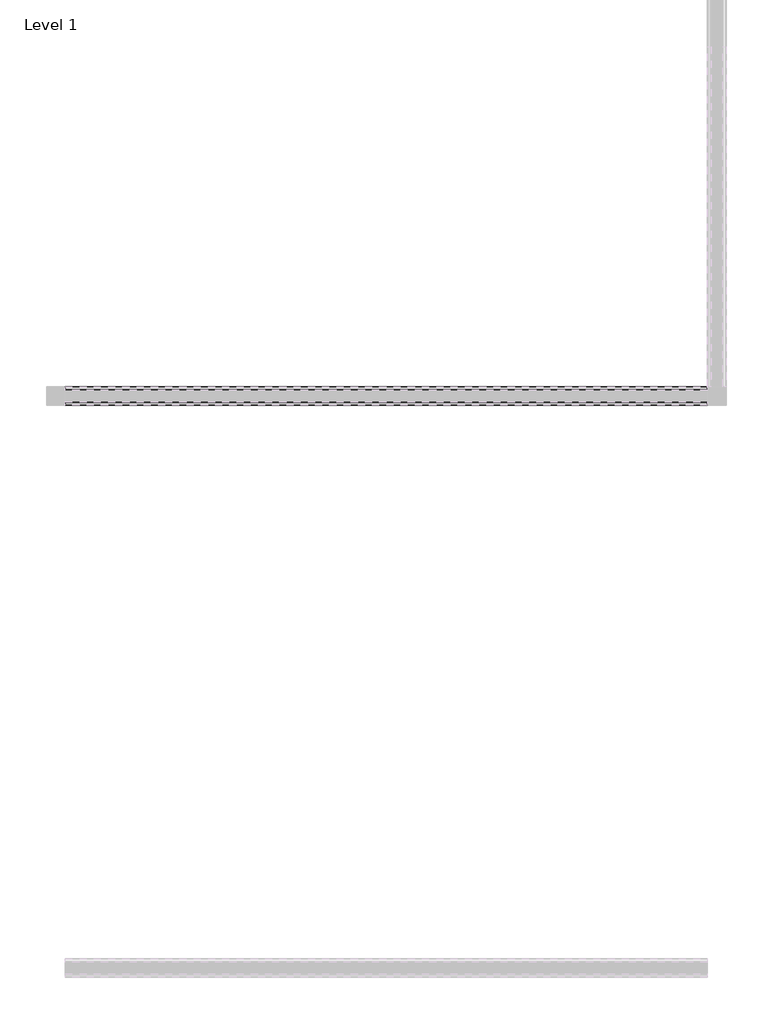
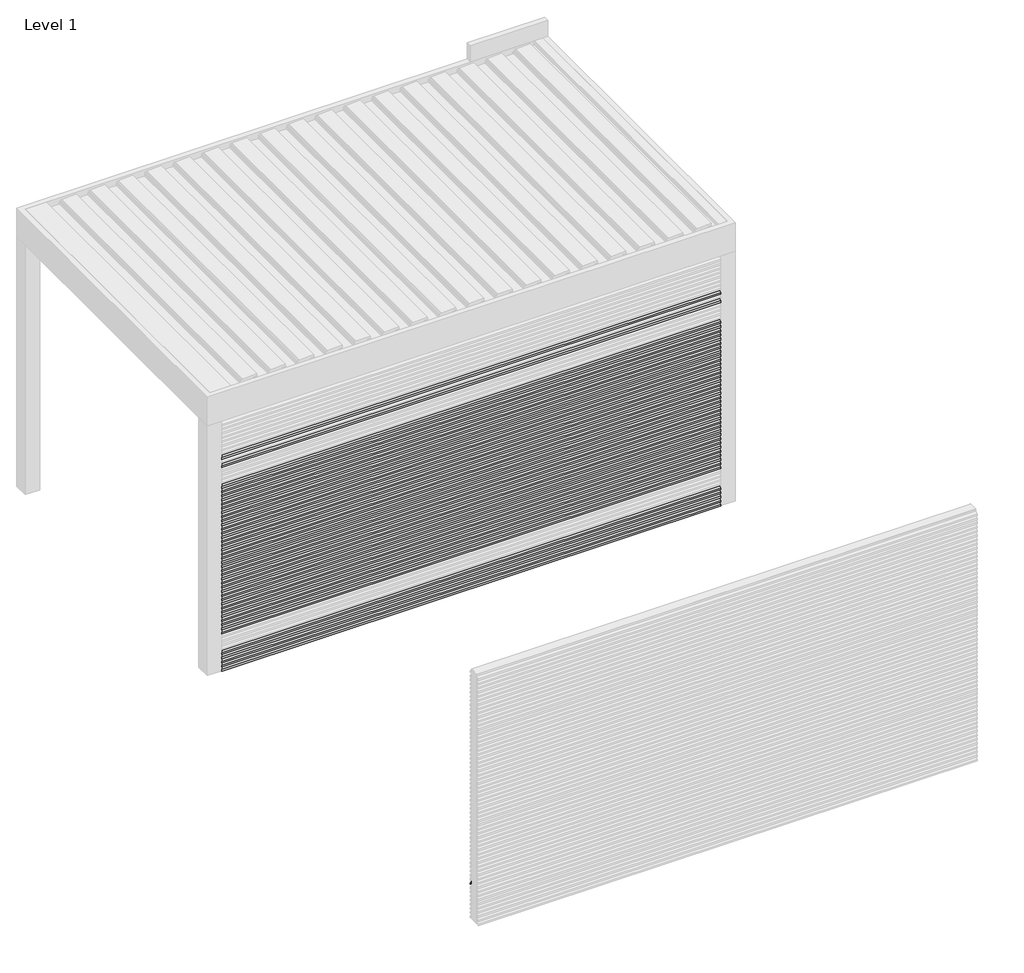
# One storey, part 40 of 47: 86 proxies.
"""IFC4 building model written with IfcOpenShell, lengths in millimetres."""

from ifc_helpers import new_model, si_unit, frame, origin, place, context, project, spatial, polyline, outline, extrude, element, save

model = new_model("IFC4")

# Units and contexts
model_context = context("Model", 3, world=origin())
ifc_project = project(units=[si_unit("LENGTHUNIT", "METRE", prefix="MILLI")], contexts=[model_context])

# Site, building, storey
site = spatial("IfcSite", under=ifc_project)
building = spatial("IfcBuilding", under=site)
storey = spatial("IfcBuildingStorey", under=building, Name="Level 1", Elevation=0.0)

# Proxies
placement = place(None, origin())
element("IfcBuildingElementProxy", 1, Name="Wall Sweeps", at=placement, inside=storey, context=model_context, shape_type="SweptSolid", body=[
    extrude(outline(polyline([(36266.8292826, 276.0), (36266.8292826, 262.5), (36265.5792826, 263.2216933), (36265.5792826, 275.2782281), (36246.4292826, 286.3345698), (36246.4292826, 300.0), (36247.6792826, 300.0), (36247.6792826, 287.0562577), (36266.8292826, 276.0)])), frame((205282.4238385, 0.0, 0.0), z_axis=(1.0, 0.0, 0.0), x_axis=(0.0, 1.0, 0.0)), (0.0, 0.0, 1.0), 3780.0),
])
element("IfcBuildingElementProxy", 2, Name="Wall Sweeps", at=placement, inside=storey, context=model_context, shape_type="SweptSolid", body=[
    extrude(outline(polyline([(39632.1593685, 309.3), (39632.1593685, 295.8), (39630.9093685, 296.5216933), (39630.9093685, 308.5782281), (39611.7593685, 319.6345698), (39611.7593685, 333.3), (39613.0093685, 333.3), (39613.0093685, 320.3562577), (39632.1593685, 309.3)])), frame((205282.4238385, 0.0, 0.0), z_axis=(1.0, 0.0, 0.0), x_axis=(0.0, 1.0, 0.0)), (0.0, 0.0, 1.0), 3780.0),
])
element("IfcBuildingElementProxy", 3, Name="Wall Sweeps", at=placement, inside=storey, context=model_context, shape_type="SweptSolid", body=[
    extrude(outline(polyline([(39522.1593685, 741.9), (39541.3093685, 752.9562577), (39541.3093685, 765.9), (39542.5593685, 765.9), (39542.5593685, 752.2345698), (39523.4093685, 741.1782281), (39523.4093685, 729.1216933), (39522.1593685, 728.4), (39522.1593685, 741.9)])), frame((205282.4238385, 0.0, 0.0), z_axis=(1.0, 0.0, 0.0), x_axis=(0.0, 1.0, 0.0)), (0.0, 0.0, 1.0), 3780.0),
])
element("IfcBuildingElementProxy", 4, Name="Wall Sweeps", at=placement, inside=storey, context=model_context, shape_type="SweptSolid", body=[
    extrude(outline(polyline([(39522.1593685, 808.5), (39541.3093685, 819.5562577), (39541.3093685, 832.5), (39542.5593685, 832.5), (39542.5593685, 818.8345698), (39523.4093685, 807.7782281), (39523.4093685, 795.7216933), (39522.1593685, 795.0), (39522.1593685, 808.5)])), frame((205282.4238385, 0.0, 0.0), z_axis=(1.0, 0.0, 0.0), x_axis=(0.0, 1.0, 0.0)), (0.0, 0.0, 1.0), 3780.0),
])
element("IfcBuildingElementProxy", 5, Name="Wall Sweeps", at=placement, inside=storey, context=model_context, shape_type="SweptSolid", body=[
    extrude(outline(polyline([(39522.1593685, 875.1), (39541.3093685, 886.1562577), (39541.3093685, 899.1), (39542.5593685, 899.1), (39542.5593685, 885.4345698), (39523.4093685, 874.3782281), (39523.4093685, 862.3216933), (39522.1593685, 861.6), (39522.1593685, 875.1)])), frame((205282.4238385, 0.0, 0.0), z_axis=(1.0, 0.0, 0.0), x_axis=(0.0, 1.0, 0.0)), (0.0, 0.0, 1.0), 3780.0),
])
element("IfcBuildingElementProxy", 6, Name="Wall Sweeps", at=placement, inside=storey, context=model_context, shape_type="SweptSolid", body=[
    extrude(outline(polyline([(39632.1593685, 1075.9), (39632.1593685, 1062.4), (39630.9093685, 1063.1216933), (39630.9093685, 1075.1782281), (39611.7593685, 1086.2345698), (39611.7593685, 1099.9), (39613.0093685, 1099.9), (39613.0093685, 1086.9562577), (39632.1593685, 1075.9)])), frame((205282.4238385, 0.0, 0.0), z_axis=(1.0, 0.0, 0.0), x_axis=(0.0, 1.0, 0.0)), (0.0, 0.0, 1.0), 3780.0),
])
element("IfcBuildingElementProxy", 7, Name="Wall Sweeps", at=placement, inside=storey, context=model_context, shape_type="SweptSolid", body=[
    extrude(outline(polyline([(39632.1593685, 1409.2), (39632.1593685, 1395.7), (39630.9093685, 1396.4216933), (39630.9093685, 1408.4782281), (39611.7593685, 1419.5345698), (39611.7593685, 1433.2), (39613.0093685, 1433.2), (39613.0093685, 1420.2562577), (39632.1593685, 1409.2)])), frame((205282.4238385, 0.0, 0.0), z_axis=(1.0, 0.0, 0.0), x_axis=(0.0, 1.0, 0.0)), (0.0, 0.0, 1.0), 3780.0),
])
element("IfcBuildingElementProxy", 8, Name="Wall Sweeps", at=placement, inside=storey, context=model_context, shape_type="SweptSolid", body=[
    extrude(outline(polyline([(39522.1593685, 1641.0), (39541.3093685, 1652.0562577), (39541.3093685, 1665.0), (39542.5593685, 1665.0), (39542.5593685, 1651.3345698), (39523.4093685, 1640.2782281), (39523.4093685, 1628.2216933), (39522.1593685, 1627.5), (39522.1593685, 1641.0)])), frame((205282.4238385, 0.0, 0.0), z_axis=(1.0, 0.0, 0.0), x_axis=(0.0, 1.0, 0.0)), (0.0, 0.0, 1.0), 3780.0),
])
element("IfcBuildingElementProxy", 9, Name="Wall Sweeps", at=placement, inside=storey, context=model_context, shape_type="SweptSolid", body=[
    extrude(outline(polyline([(39522.1593685, 142.5), (39541.3093685, 153.5562577), (39541.3093685, 166.5), (39542.5593685, 166.5), (39542.5593685, 152.8345698), (39523.4093685, 141.7782281), (39523.4093685, 129.7216933), (39522.1593685, 129.0), (39522.1593685, 142.5)])), frame((205282.4238385, 0.0, 0.0), z_axis=(1.0, 0.0, 0.0), x_axis=(0.0, 1.0, 0.0)), (0.0, 0.0, 1.0), 3780.0),
])
element("IfcBuildingElementProxy", 10, Name="Wall Sweeps", at=placement, inside=storey, context=model_context, shape_type="SweptSolid", body=[
    extrude(outline(polyline([(39632.1593685, 1641.0), (39632.1593685, 1627.5), (39630.9093685, 1628.2216933), (39630.9093685, 1640.2782281), (39611.7593685, 1651.3345698), (39611.7593685, 1665.0), (39613.0093685, 1665.0), (39613.0093685, 1652.0562577), (39632.1593685, 1641.0)])), frame((205282.4238385, 0.0, 0.0), z_axis=(1.0, 0.0, 0.0), x_axis=(0.0, 1.0, 0.0)), (0.0, 0.0, 1.0), 3780.0),
])
element("IfcBuildingElementProxy", 11, Name="Wall Sweeps", at=placement, inside=storey, context=model_context, shape_type="SweptSolid", body=[
    extrude(outline(polyline([(39522.1593685, 1707.6), (39541.3093685, 1718.6562577), (39541.3093685, 1731.6), (39542.5593685, 1731.6), (39542.5593685, 1717.9345698), (39523.4093685, 1706.8782281), (39523.4093685, 1694.8216933), (39522.1593685, 1694.1), (39522.1593685, 1707.6)])), frame((205282.4238385, 0.0, 0.0), z_axis=(1.0, 0.0, 0.0), x_axis=(0.0, 1.0, 0.0)), (0.0, 0.0, 1.0), 3780.0),
])
element("IfcBuildingElementProxy", 12, Name="Wall Sweeps", at=placement, inside=storey, context=model_context, shape_type="SweptSolid", body=[
    extrude(outline(polyline([(39632.1593685, 209.3), (39632.1593685, 195.8), (39630.9093685, 196.5216933), (39630.9093685, 208.5782281), (39611.7593685, 219.6345698), (39611.7593685, 233.3), (39613.0093685, 233.3), (39613.0093685, 220.3562577), (39632.1593685, 209.3)])), frame((205282.4238385, 0.0, 0.0), z_axis=(1.0, 0.0, 0.0), x_axis=(0.0, 1.0, 0.0)), (0.0, 0.0, 1.0), 3780.0),
])
element("IfcBuildingElementProxy", 13, Name="Wall Sweeps", at=placement, inside=storey, context=model_context, shape_type="SweptSolid", body=[
    extrude(outline(polyline([(39522.1593685, 309.0), (39541.3093685, 320.0562577), (39541.3093685, 333.0), (39542.5593685, 333.0), (39542.5593685, 319.3345698), (39523.4093685, 308.2782281), (39523.4093685, 296.2216933), (39522.1593685, 295.5), (39522.1593685, 309.0)])), frame((205282.4238385, 0.0, 0.0), z_axis=(1.0, 0.0, 0.0), x_axis=(0.0, 1.0, 0.0)), (0.0, 0.0, 1.0), 3780.0),
])
element("IfcBuildingElementProxy", 14, Name="Wall Sweeps", at=placement, inside=storey, context=model_context, shape_type="SweptSolid", body=[
    extrude(outline(polyline([(39522.1593685, 9.3), (39541.3093685, 20.3562577), (39541.3093685, 33.3), (39542.5593685, 33.3), (39542.5593685, 19.6345698), (39523.4093685, 8.5782281), (39523.4093685, -3.4783067), (39522.1593685, -4.2), (39522.1593685, 9.3)])), frame((205282.4238385, 0.0, 0.0), z_axis=(1.0, 0.0, 0.0), x_axis=(0.0, 1.0, 0.0)), (0.0, 0.0, 1.0), 3780.0),
])
element("IfcBuildingElementProxy", 15, Name="Wall Sweeps", at=placement, inside=storey, context=model_context, shape_type="SweptSolid", body=[
    extrude(outline(polyline([(39632.1593685, 9.3), (39632.1593685, -4.2), (39630.9093685, -3.4783067), (39630.9093685, 8.5782281), (39611.7593685, 19.6345698), (39611.7593685, 33.3), (39613.0093685, 33.3), (39613.0093685, 20.3562577), (39632.1593685, 9.3)])), frame((205282.4238385, 0.0, 0.0), z_axis=(1.0, 0.0, 0.0), x_axis=(0.0, 1.0, 0.0)), (0.0, 0.0, 1.0), 3780.0),
])
element("IfcBuildingElementProxy", 16, Name="Wall Sweeps", at=placement, inside=storey, context=model_context, shape_type="SweptSolid", body=[
    extrude(outline(polyline([(39522.1593685, 342.3), (39541.3093685, 353.3562577), (39541.3093685, 366.3), (39542.5593685, 366.3), (39542.5593685, 352.6345698), (39523.4093685, 341.5782281), (39523.4093685, 329.5216933), (39522.1593685, 328.8), (39522.1593685, 342.3)])), frame((205282.4238385, 0.0, 0.0), z_axis=(1.0, 0.0, 0.0), x_axis=(0.0, 1.0, 0.0)), (0.0, 0.0, 1.0), 3780.0),
])
element("IfcBuildingElementProxy", 17, Name="Wall Sweeps", at=placement, inside=storey, context=model_context, shape_type="SweptSolid", body=[
    extrude(outline(polyline([(39632.1593685, 342.6), (39632.1593685, 329.1), (39630.9093685, 329.8216933), (39630.9093685, 341.8782281), (39611.7593685, 352.9345698), (39611.7593685, 366.6), (39613.0093685, 366.6), (39613.0093685, 353.6562577), (39632.1593685, 342.6)])), frame((205282.4238385, 0.0, 0.0), z_axis=(1.0, 0.0, 0.0), x_axis=(0.0, 1.0, 0.0)), (0.0, 0.0, 1.0), 3780.0),
])
element("IfcBuildingElementProxy", 18, Name="Wall Sweeps", at=placement, inside=storey, context=model_context, shape_type="SweptSolid", body=[
    extrude(outline(polyline([(39522.1593685, 375.6), (39541.3093685, 386.6562577), (39541.3093685, 399.6), (39542.5593685, 399.6), (39542.5593685, 385.9345698), (39523.4093685, 374.8782281), (39523.4093685, 362.8216933), (39522.1593685, 362.1), (39522.1593685, 375.6)])), frame((205282.4238385, 0.0, 0.0), z_axis=(1.0, 0.0, 0.0), x_axis=(0.0, 1.0, 0.0)), (0.0, 0.0, 1.0), 3780.0),
])
element("IfcBuildingElementProxy", 19, Name="Wall Sweeps", at=placement, inside=storey, context=model_context, shape_type="SweptSolid", body=[
    extrude(outline(polyline([(39632.1593685, 376.0), (39632.1593685, 362.5), (39630.9093685, 363.2216933), (39630.9093685, 375.2782281), (39611.7593685, 386.3345698), (39611.7593685, 400.0), (39613.0093685, 400.0), (39613.0093685, 387.0562577), (39632.1593685, 376.0)])), frame((205282.4238385, 0.0, 0.0), z_axis=(1.0, 0.0, 0.0), x_axis=(0.0, 1.0, 0.0)), (0.0, 0.0, 1.0), 3780.0),
])
element("IfcBuildingElementProxy", 20, Name="Wall Sweeps", at=placement, inside=storey, context=model_context, shape_type="SweptSolid", body=[
    extrude(outline(polyline([(39522.1593685, 408.9), (39541.3093685, 419.9562577), (39541.3093685, 432.9), (39542.5593685, 432.9), (39542.5593685, 419.2345698), (39523.4093685, 408.1782281), (39523.4093685, 396.1216933), (39522.1593685, 395.4), (39522.1593685, 408.9)])), frame((205282.4238385, 0.0, 0.0), z_axis=(1.0, 0.0, 0.0), x_axis=(0.0, 1.0, 0.0)), (0.0, 0.0, 1.0), 3780.0),
])
element("IfcBuildingElementProxy", 21, Name="Wall Sweeps", at=placement, inside=storey, context=model_context, shape_type="SweptSolid", body=[
    extrude(outline(polyline([(39632.1593685, 409.3), (39632.1593685, 395.8), (39630.9093685, 396.5216933), (39630.9093685, 408.5782281), (39611.7593685, 419.6345698), (39611.7593685, 433.3), (39613.0093685, 433.3), (39613.0093685, 420.3562577), (39632.1593685, 409.3)])), frame((205282.4238385, 0.0, 0.0), z_axis=(1.0, 0.0, 0.0), x_axis=(0.0, 1.0, 0.0)), (0.0, 0.0, 1.0), 3780.0),
])
element("IfcBuildingElementProxy", 22, Name="Wall Sweeps", at=placement, inside=storey, context=model_context, shape_type="SweptSolid", body=[
    extrude(outline(polyline([(39522.1593685, 442.2), (39541.3093685, 453.2562577), (39541.3093685, 466.2), (39542.5593685, 466.2), (39542.5593685, 452.5345698), (39523.4093685, 441.4782281), (39523.4093685, 429.4216933), (39522.1593685, 428.7), (39522.1593685, 442.2)])), frame((205282.4238385, 0.0, 0.0), z_axis=(1.0, 0.0, 0.0), x_axis=(0.0, 1.0, 0.0)), (0.0, 0.0, 1.0), 3780.0),
])
element("IfcBuildingElementProxy", 23, Name="Wall Sweeps", at=placement, inside=storey, context=model_context, shape_type="SweptSolid", body=[
    extrude(outline(polyline([(39632.1593685, 442.6), (39632.1593685, 429.1), (39630.9093685, 429.8216933), (39630.9093685, 441.8782281), (39611.7593685, 452.9345698), (39611.7593685, 466.6), (39613.0093685, 466.6), (39613.0093685, 453.6562577), (39632.1593685, 442.6)])), frame((205282.4238385, 0.0, 0.0), z_axis=(1.0, 0.0, 0.0), x_axis=(0.0, 1.0, 0.0)), (0.0, 0.0, 1.0), 3780.0),
])
element("IfcBuildingElementProxy", 24, Name="Wall Sweeps", at=placement, inside=storey, context=model_context, shape_type="SweptSolid", body=[
    extrude(outline(polyline([(39522.1593685, 475.5), (39541.3093685, 486.5562577), (39541.3093685, 499.5), (39542.5593685, 499.5), (39542.5593685, 485.8345698), (39523.4093685, 474.7782281), (39523.4093685, 462.7216933), (39522.1593685, 462.0), (39522.1593685, 475.5)])), frame((205282.4238385, 0.0, 0.0), z_axis=(1.0, 0.0, 0.0), x_axis=(0.0, 1.0, 0.0)), (0.0, 0.0, 1.0), 3780.0),
])
element("IfcBuildingElementProxy", 25, Name="Wall Sweeps", at=placement, inside=storey, context=model_context, shape_type="SweptSolid", body=[
    extrude(outline(polyline([(39632.1593685, 476.0), (39632.1593685, 462.5), (39630.9093685, 463.2216933), (39630.9093685, 475.2782281), (39611.7593685, 486.3345698), (39611.7593685, 500.0), (39613.0093685, 500.0), (39613.0093685, 487.0562577), (39632.1593685, 476.0)])), frame((205282.4238385, 0.0, 0.0), z_axis=(1.0, 0.0, 0.0), x_axis=(0.0, 1.0, 0.0)), (0.0, 0.0, 1.0), 3780.0),
])
element("IfcBuildingElementProxy", 26, Name="Wall Sweeps", at=placement, inside=storey, context=model_context, shape_type="SweptSolid", body=[
    extrude(outline(polyline([(39522.1593685, 508.8), (39541.3093685, 519.8562577), (39541.3093685, 532.8), (39542.5593685, 532.8), (39542.5593685, 519.1345698), (39523.4093685, 508.0782281), (39523.4093685, 496.0216933), (39522.1593685, 495.3), (39522.1593685, 508.8)])), frame((205282.4238385, 0.0, 0.0), z_axis=(1.0, 0.0, 0.0), x_axis=(0.0, 1.0, 0.0)), (0.0, 0.0, 1.0), 3780.0),
])
element("IfcBuildingElementProxy", 27, Name="Wall Sweeps", at=placement, inside=storey, context=model_context, shape_type="SweptSolid", body=[
    extrude(outline(polyline([(39632.1593685, 509.3), (39632.1593685, 495.8), (39630.9093685, 496.5216933), (39630.9093685, 508.5782281), (39611.7593685, 519.6345698), (39611.7593685, 533.3), (39613.0093685, 533.3), (39613.0093685, 520.3562577), (39632.1593685, 509.3)])), frame((205282.4238385, 0.0, 0.0), z_axis=(1.0, 0.0, 0.0), x_axis=(0.0, 1.0, 0.0)), (0.0, 0.0, 1.0), 3780.0),
])
element("IfcBuildingElementProxy", 28, Name="Wall Sweeps", at=placement, inside=storey, context=model_context, shape_type="SweptSolid", body=[
    extrude(outline(polyline([(39522.1593685, 542.1), (39541.3093685, 553.1562577), (39541.3093685, 566.1), (39542.5593685, 566.1), (39542.5593685, 552.4345698), (39523.4093685, 541.3782281), (39523.4093685, 529.3216933), (39522.1593685, 528.6), (39522.1593685, 542.1)])), frame((205282.4238385, 0.0, 0.0), z_axis=(1.0, 0.0, 0.0), x_axis=(0.0, 1.0, 0.0)), (0.0, 0.0, 1.0), 3780.0),
])
element("IfcBuildingElementProxy", 29, Name="Wall Sweeps", at=placement, inside=storey, context=model_context, shape_type="SweptSolid", body=[
    extrude(outline(polyline([(39632.1593685, 542.6), (39632.1593685, 529.1), (39630.9093685, 529.8216933), (39630.9093685, 541.8782281), (39611.7593685, 552.9345698), (39611.7593685, 566.6), (39613.0093685, 566.6), (39613.0093685, 553.6562577), (39632.1593685, 542.6)])), frame((205282.4238385, 0.0, 0.0), z_axis=(1.0, 0.0, 0.0), x_axis=(0.0, 1.0, 0.0)), (0.0, 0.0, 1.0), 3780.0),
])
element("IfcBuildingElementProxy", 30, Name="Wall Sweeps", at=placement, inside=storey, context=model_context, shape_type="SweptSolid", body=[
    extrude(outline(polyline([(39522.1593685, 575.4), (39541.3093685, 586.4562577), (39541.3093685, 599.4), (39542.5593685, 599.4), (39542.5593685, 585.7345698), (39523.4093685, 574.6782281), (39523.4093685, 562.6216933), (39522.1593685, 561.9), (39522.1593685, 575.4)])), frame((205282.4238385, 0.0, 0.0), z_axis=(1.0, 0.0, 0.0), x_axis=(0.0, 1.0, 0.0)), (0.0, 0.0, 1.0), 3780.0),
])
element("IfcBuildingElementProxy", 31, Name="Wall Sweeps", at=placement, inside=storey, context=model_context, shape_type="SweptSolid", body=[
    extrude(outline(polyline([(39632.1593685, 575.9), (39632.1593685, 562.4), (39630.9093685, 563.1216933), (39630.9093685, 575.1782281), (39611.7593685, 586.2345698), (39611.7593685, 599.9), (39613.0093685, 599.9), (39613.0093685, 586.9562577), (39632.1593685, 575.9)])), frame((205282.4238385, 0.0, 0.0), z_axis=(1.0, 0.0, 0.0), x_axis=(0.0, 1.0, 0.0)), (0.0, 0.0, 1.0), 3780.0),
])
element("IfcBuildingElementProxy", 32, Name="Wall Sweeps", at=placement, inside=storey, context=model_context, shape_type="SweptSolid", body=[
    extrude(outline(polyline([(39522.1593685, 608.7), (39541.3093685, 619.7562577), (39541.3093685, 632.7), (39542.5593685, 632.7), (39542.5593685, 619.0345698), (39523.4093685, 607.9782281), (39523.4093685, 595.9216933), (39522.1593685, 595.2), (39522.1593685, 608.7)])), frame((205282.4238385, 0.0, 0.0), z_axis=(1.0, 0.0, 0.0), x_axis=(0.0, 1.0, 0.0)), (0.0, 0.0, 1.0), 3780.0),
])
element("IfcBuildingElementProxy", 33, Name="Wall Sweeps", at=placement, inside=storey, context=model_context, shape_type="SweptSolid", body=[
    extrude(outline(polyline([(39632.1593685, 609.3), (39632.1593685, 595.8), (39630.9093685, 596.5216933), (39630.9093685, 608.5782281), (39611.7593685, 619.6345698), (39611.7593685, 633.3), (39613.0093685, 633.3), (39613.0093685, 620.3562577), (39632.1593685, 609.3)])), frame((205282.4238385, 0.0, 0.0), z_axis=(1.0, 0.0, 0.0), x_axis=(0.0, 1.0, 0.0)), (0.0, 0.0, 1.0), 3780.0),
])
element("IfcBuildingElementProxy", 34, Name="Wall Sweeps", at=placement, inside=storey, context=model_context, shape_type="SweptSolid", body=[
    extrude(outline(polyline([(39522.1593685, 642.0), (39541.3093685, 653.0562577), (39541.3093685, 666.0), (39542.5593685, 666.0), (39542.5593685, 652.3345698), (39523.4093685, 641.2782281), (39523.4093685, 629.2216933), (39522.1593685, 628.5), (39522.1593685, 642.0)])), frame((205282.4238385, 0.0, 0.0), z_axis=(1.0, 0.0, 0.0), x_axis=(0.0, 1.0, 0.0)), (0.0, 0.0, 1.0), 3780.0),
])
element("IfcBuildingElementProxy", 35, Name="Wall Sweeps", at=placement, inside=storey, context=model_context, shape_type="SweptSolid", body=[
    extrude(outline(polyline([(39522.1593685, 42.6), (39541.3093685, 53.6562577), (39541.3093685, 66.6), (39542.5593685, 66.6), (39542.5593685, 52.9345698), (39523.4093685, 41.8782281), (39523.4093685, 29.8216933), (39522.1593685, 29.1), (39522.1593685, 42.6)])), frame((205282.4238385, 0.0, 0.0), z_axis=(1.0, 0.0, 0.0), x_axis=(0.0, 1.0, 0.0)), (0.0, 0.0, 1.0), 3780.0),
])
element("IfcBuildingElementProxy", 36, Name="Wall Sweeps", at=placement, inside=storey, context=model_context, shape_type="SweptSolid", body=[
    extrude(outline(polyline([(39632.1593685, 642.6), (39632.1593685, 629.1), (39630.9093685, 629.8216933), (39630.9093685, 641.8782281), (39611.7593685, 652.9345698), (39611.7593685, 666.6), (39613.0093685, 666.6), (39613.0093685, 653.6562577), (39632.1593685, 642.6)])), frame((205282.4238385, 0.0, 0.0), z_axis=(1.0, 0.0, 0.0), x_axis=(0.0, 1.0, 0.0)), (0.0, 0.0, 1.0), 3780.0),
])
element("IfcBuildingElementProxy", 37, Name="Wall Sweeps", at=placement, inside=storey, context=model_context, shape_type="SweptSolid", body=[
    extrude(outline(polyline([(39632.1593685, 42.7), (39632.1593685, 29.2), (39630.9093685, 29.9216933), (39630.9093685, 41.9782281), (39611.7593685, 53.0345698), (39611.7593685, 66.7), (39613.0093685, 66.7), (39613.0093685, 53.7562577), (39632.1593685, 42.7)])), frame((205282.4238385, 0.0, 0.0), z_axis=(1.0, 0.0, 0.0), x_axis=(0.0, 1.0, 0.0)), (0.0, 0.0, 1.0), 3780.0),
])
element("IfcBuildingElementProxy", 38, Name="Wall Sweeps", at=placement, inside=storey, context=model_context, shape_type="SweptSolid", body=[
    extrude(outline(polyline([(39522.1593685, 675.3), (39541.3093685, 686.3562577), (39541.3093685, 699.3), (39542.5593685, 699.3), (39542.5593685, 685.6345698), (39523.4093685, 674.5782281), (39523.4093685, 662.5216933), (39522.1593685, 661.8), (39522.1593685, 675.3)])), frame((205282.4238385, 0.0, 0.0), z_axis=(1.0, 0.0, 0.0), x_axis=(0.0, 1.0, 0.0)), (0.0, 0.0, 1.0), 3780.0),
])
element("IfcBuildingElementProxy", 39, Name="Wall Sweeps", at=placement, inside=storey, context=model_context, shape_type="SweptSolid", body=[
    extrude(outline(polyline([(39632.1593685, 675.9), (39632.1593685, 662.4), (39630.9093685, 663.1216933), (39630.9093685, 675.1782281), (39611.7593685, 686.2345698), (39611.7593685, 699.9), (39613.0093685, 699.9), (39613.0093685, 686.9562577), (39632.1593685, 675.9)])), frame((205282.4238385, 0.0, 0.0), z_axis=(1.0, 0.0, 0.0), x_axis=(0.0, 1.0, 0.0)), (0.0, 0.0, 1.0), 3780.0),
])
element("IfcBuildingElementProxy", 40, Name="Wall Sweeps", at=placement, inside=storey, context=model_context, shape_type="SweptSolid", body=[
    extrude(outline(polyline([(39522.1593685, 708.6), (39541.3093685, 719.6562577), (39541.3093685, 732.6), (39542.5593685, 732.6), (39542.5593685, 718.9345698), (39523.4093685, 707.8782281), (39523.4093685, 695.8216933), (39522.1593685, 695.1), (39522.1593685, 708.6)])), frame((205282.4238385, 0.0, 0.0), z_axis=(1.0, 0.0, 0.0), x_axis=(0.0, 1.0, 0.0)), (0.0, 0.0, 1.0), 3780.0),
])
element("IfcBuildingElementProxy", 41, Name="Wall Sweeps", at=placement, inside=storey, context=model_context, shape_type="SweptSolid", body=[
    extrude(outline(polyline([(39632.1593685, 709.3), (39632.1593685, 695.8), (39630.9093685, 696.5216933), (39630.9093685, 708.5782281), (39611.7593685, 719.6345698), (39611.7593685, 733.3), (39613.0093685, 733.3), (39613.0093685, 720.3562577), (39632.1593685, 709.3)])), frame((205282.4238385, 0.0, 0.0), z_axis=(1.0, 0.0, 0.0), x_axis=(0.0, 1.0, 0.0)), (0.0, 0.0, 1.0), 3780.0),
])
element("IfcBuildingElementProxy", 42, Name="Wall Sweeps", at=placement, inside=storey, context=model_context, shape_type="SweptSolid", body=[
    extrude(outline(polyline([(39632.1593685, 742.6), (39632.1593685, 729.1), (39630.9093685, 729.8216933), (39630.9093685, 741.8782281), (39611.7593685, 752.9345698), (39611.7593685, 766.6), (39613.0093685, 766.6), (39613.0093685, 753.6562577), (39632.1593685, 742.6)])), frame((205282.4238385, 0.0, 0.0), z_axis=(1.0, 0.0, 0.0), x_axis=(0.0, 1.0, 0.0)), (0.0, 0.0, 1.0), 3780.0),
])
element("IfcBuildingElementProxy", 43, Name="Wall Sweeps", at=placement, inside=storey, context=model_context, shape_type="SweptSolid", body=[
    extrude(outline(polyline([(39522.1593685, 775.2), (39541.3093685, 786.2562577), (39541.3093685, 799.2), (39542.5593685, 799.2), (39542.5593685, 785.5345698), (39523.4093685, 774.4782281), (39523.4093685, 762.4216933), (39522.1593685, 761.7), (39522.1593685, 775.2)])), frame((205282.4238385, 0.0, 0.0), z_axis=(1.0, 0.0, 0.0), x_axis=(0.0, 1.0, 0.0)), (0.0, 0.0, 1.0), 3780.0),
])
element("IfcBuildingElementProxy", 44, Name="Wall Sweeps", at=placement, inside=storey, context=model_context, shape_type="SweptSolid", body=[
    extrude(outline(polyline([(39632.1593685, 775.9), (39632.1593685, 762.4), (39630.9093685, 763.1216933), (39630.9093685, 775.1782281), (39611.7593685, 786.2345698), (39611.7593685, 799.9), (39613.0093685, 799.9), (39613.0093685, 786.9562577), (39632.1593685, 775.9)])), frame((205282.4238385, 0.0, 0.0), z_axis=(1.0, 0.0, 0.0), x_axis=(0.0, 1.0, 0.0)), (0.0, 0.0, 1.0), 3780.0),
])
element("IfcBuildingElementProxy", 45, Name="Wall Sweeps", at=placement, inside=storey, context=model_context, shape_type="SweptSolid", body=[
    extrude(outline(polyline([(39632.1593685, 809.3), (39632.1593685, 795.8), (39630.9093685, 796.5216933), (39630.9093685, 808.5782281), (39611.7593685, 819.6345698), (39611.7593685, 833.3), (39613.0093685, 833.3), (39613.0093685, 820.3562577), (39632.1593685, 809.3)])), frame((205282.4238385, 0.0, 0.0), z_axis=(1.0, 0.0, 0.0), x_axis=(0.0, 1.0, 0.0)), (0.0, 0.0, 1.0), 3780.0),
])
element("IfcBuildingElementProxy", 46, Name="Wall Sweeps", at=placement, inside=storey, context=model_context, shape_type="SweptSolid", body=[
    extrude(outline(polyline([(39522.1593685, 841.8), (39541.3093685, 852.8562577), (39541.3093685, 865.8), (39542.5593685, 865.8), (39542.5593685, 852.1345698), (39523.4093685, 841.0782281), (39523.4093685, 829.0216933), (39522.1593685, 828.3), (39522.1593685, 841.8)])), frame((205282.4238385, 0.0, 0.0), z_axis=(1.0, 0.0, 0.0), x_axis=(0.0, 1.0, 0.0)), (0.0, 0.0, 1.0), 3780.0),
])
element("IfcBuildingElementProxy", 47, Name="Wall Sweeps", at=placement, inside=storey, context=model_context, shape_type="SweptSolid", body=[
    extrude(outline(polyline([(39632.1593685, 842.6), (39632.1593685, 829.1), (39630.9093685, 829.8216933), (39630.9093685, 841.8782281), (39611.7593685, 852.9345698), (39611.7593685, 866.6), (39613.0093685, 866.6), (39613.0093685, 853.6562577), (39632.1593685, 842.6)])), frame((205282.4238385, 0.0, 0.0), z_axis=(1.0, 0.0, 0.0), x_axis=(0.0, 1.0, 0.0)), (0.0, 0.0, 1.0), 3780.0),
])
element("IfcBuildingElementProxy", 48, Name="Wall Sweeps", at=placement, inside=storey, context=model_context, shape_type="SweptSolid", body=[
    extrude(outline(polyline([(39632.1593685, 875.9), (39632.1593685, 862.4), (39630.9093685, 863.1216933), (39630.9093685, 875.1782281), (39611.7593685, 886.2345698), (39611.7593685, 899.9), (39613.0093685, 899.9), (39613.0093685, 886.9562577), (39632.1593685, 875.9)])), frame((205282.4238385, 0.0, 0.0), z_axis=(1.0, 0.0, 0.0), x_axis=(0.0, 1.0, 0.0)), (0.0, 0.0, 1.0), 3780.0),
])
element("IfcBuildingElementProxy", 49, Name="Wall Sweeps", at=placement, inside=storey, context=model_context, shape_type="SweptSolid", body=[
    extrude(outline(polyline([(39522.1593685, 908.4), (39541.3093685, 919.4562577), (39541.3093685, 932.4), (39542.5593685, 932.4), (39542.5593685, 918.7345698), (39523.4093685, 907.6782281), (39523.4093685, 895.6216933), (39522.1593685, 894.9), (39522.1593685, 908.4)])), frame((205282.4238385, 0.0, 0.0), z_axis=(1.0, 0.0, 0.0), x_axis=(0.0, 1.0, 0.0)), (0.0, 0.0, 1.0), 3780.0),
])
element("IfcBuildingElementProxy", 50, Name="Wall Sweeps", at=placement, inside=storey, context=model_context, shape_type="SweptSolid", body=[
    extrude(outline(polyline([(39632.1593685, 909.2), (39632.1593685, 895.7), (39630.9093685, 896.4216933), (39630.9093685, 908.4782281), (39611.7593685, 919.5345698), (39611.7593685, 933.2), (39613.0093685, 933.2), (39613.0093685, 920.2562577), (39632.1593685, 909.2)])), frame((205282.4238385, 0.0, 0.0), z_axis=(1.0, 0.0, 0.0), x_axis=(0.0, 1.0, 0.0)), (0.0, 0.0, 1.0), 3780.0),
])
element("IfcBuildingElementProxy", 51, Name="Wall Sweeps", at=placement, inside=storey, context=model_context, shape_type="SweptSolid", body=[
    extrude(outline(polyline([(39522.1593685, 941.7), (39541.3093685, 952.7562577), (39541.3093685, 965.7), (39542.5593685, 965.7), (39542.5593685, 952.0345698), (39523.4093685, 940.9782281), (39523.4093685, 928.9216933), (39522.1593685, 928.2), (39522.1593685, 941.7)])), frame((205282.4238385, 0.0, 0.0), z_axis=(1.0, 0.0, 0.0), x_axis=(0.0, 1.0, 0.0)), (0.0, 0.0, 1.0), 3780.0),
])
element("IfcBuildingElementProxy", 52, Name="Wall Sweeps", at=placement, inside=storey, context=model_context, shape_type="SweptSolid", body=[
    extrude(outline(polyline([(39632.1593685, 942.6), (39632.1593685, 929.1), (39630.9093685, 929.8216933), (39630.9093685, 941.8782281), (39611.7593685, 952.9345698), (39611.7593685, 966.6), (39613.0093685, 966.6), (39613.0093685, 953.6562577), (39632.1593685, 942.6)])), frame((205282.4238385, 0.0, 0.0), z_axis=(1.0, 0.0, 0.0), x_axis=(0.0, 1.0, 0.0)), (0.0, 0.0, 1.0), 3780.0),
])
element("IfcBuildingElementProxy", 53, Name="Wall Sweeps", at=placement, inside=storey, context=model_context, shape_type="SweptSolid", body=[
    extrude(outline(polyline([(39522.1593685, 975.0), (39541.3093685, 986.0562577), (39541.3093685, 999.0), (39542.5593685, 999.0), (39542.5593685, 985.3345698), (39523.4093685, 974.2782281), (39523.4093685, 962.2216933), (39522.1593685, 961.5), (39522.1593685, 975.0)])), frame((205282.4238385, 0.0, 0.0), z_axis=(1.0, 0.0, 0.0), x_axis=(0.0, 1.0, 0.0)), (0.0, 0.0, 1.0), 3780.0),
])
element("IfcBuildingElementProxy", 54, Name="Wall Sweeps", at=placement, inside=storey, context=model_context, shape_type="SweptSolid", body=[
    extrude(outline(polyline([(39632.1593685, 975.9), (39632.1593685, 962.4), (39630.9093685, 963.1216933), (39630.9093685, 975.1782281), (39611.7593685, 986.2345698), (39611.7593685, 999.9), (39613.0093685, 999.9), (39613.0093685, 986.9562577), (39632.1593685, 975.9)])), frame((205282.4238385, 0.0, 0.0), z_axis=(1.0, 0.0, 0.0), x_axis=(0.0, 1.0, 0.0)), (0.0, 0.0, 1.0), 3780.0),
])
element("IfcBuildingElementProxy", 55, Name="Wall Sweeps", at=placement, inside=storey, context=model_context, shape_type="SweptSolid", body=[
    extrude(outline(polyline([(39522.1593685, 76.0), (39541.3093685, 87.0562577), (39541.3093685, 100.0), (39542.5593685, 100.0), (39542.5593685, 86.3345698), (39523.4093685, 75.2782281), (39523.4093685, 63.2216933), (39522.1593685, 62.5), (39522.1593685, 76.0)])), frame((205282.4238385, 0.0, 0.0), z_axis=(1.0, 0.0, 0.0), x_axis=(0.0, 1.0, 0.0)), (0.0, 0.0, 1.0), 3780.0),
])
element("IfcBuildingElementProxy", 56, Name="Wall Sweeps", at=placement, inside=storey, context=model_context, shape_type="SweptSolid", body=[
    extrude(outline(polyline([(39632.1593685, 76.0), (39632.1593685, 62.5), (39630.9093685, 63.2216933), (39630.9093685, 75.2782281), (39611.7593685, 86.3345698), (39611.7593685, 100.0), (39613.0093685, 100.0), (39613.0093685, 87.0562577), (39632.1593685, 76.0)])), frame((205282.4238385, 0.0, 0.0), z_axis=(1.0, 0.0, 0.0), x_axis=(0.0, 1.0, 0.0)), (0.0, 0.0, 1.0), 3780.0),
])
element("IfcBuildingElementProxy", 57, Name="Wall Sweeps", at=placement, inside=storey, context=model_context, shape_type="SweptSolid", body=[
    extrude(outline(polyline([(39522.1593685, 1008.3), (39541.3093685, 1019.3562577), (39541.3093685, 1032.3), (39542.5593685, 1032.3), (39542.5593685, 1018.6345698), (39523.4093685, 1007.5782281), (39523.4093685, 995.5216933), (39522.1593685, 994.8), (39522.1593685, 1008.3)])), frame((205282.4238385, 0.0, 0.0), z_axis=(1.0, 0.0, 0.0), x_axis=(0.0, 1.0, 0.0)), (0.0, 0.0, 1.0), 3780.0),
])
element("IfcBuildingElementProxy", 58, Name="Wall Sweeps", at=placement, inside=storey, context=model_context, shape_type="SweptSolid", body=[
    extrude(outline(polyline([(39632.1593685, 1009.2), (39632.1593685, 995.7), (39630.9093685, 996.4216933), (39630.9093685, 1008.4782281), (39611.7593685, 1019.5345698), (39611.7593685, 1033.2), (39613.0093685, 1033.2), (39613.0093685, 1020.2562577), (39632.1593685, 1009.2)])), frame((205282.4238385, 0.0, 0.0), z_axis=(1.0, 0.0, 0.0), x_axis=(0.0, 1.0, 0.0)), (0.0, 0.0, 1.0), 3780.0),
])
element("IfcBuildingElementProxy", 59, Name="Wall Sweeps", at=placement, inside=storey, context=model_context, shape_type="SweptSolid", body=[
    extrude(outline(polyline([(39522.1593685, 1041.6), (39541.3093685, 1052.6562577), (39541.3093685, 1065.6), (39542.5593685, 1065.6), (39542.5593685, 1051.9345698), (39523.4093685, 1040.8782281), (39523.4093685, 1028.8216933), (39522.1593685, 1028.1), (39522.1593685, 1041.6)])), frame((205282.4238385, 0.0, 0.0), z_axis=(1.0, 0.0, 0.0), x_axis=(0.0, 1.0, 0.0)), (0.0, 0.0, 1.0), 3780.0),
])
element("IfcBuildingElementProxy", 60, Name="Wall Sweeps", at=placement, inside=storey, context=model_context, shape_type="SweptSolid", body=[
    extrude(outline(polyline([(39632.1593685, 1042.6), (39632.1593685, 1029.1), (39630.9093685, 1029.8216933), (39630.9093685, 1041.8782281), (39611.7593685, 1052.9345698), (39611.7593685, 1066.6), (39613.0093685, 1066.6), (39613.0093685, 1053.6562577), (39632.1593685, 1042.6)])), frame((205282.4238385, 0.0, 0.0), z_axis=(1.0, 0.0, 0.0), x_axis=(0.0, 1.0, 0.0)), (0.0, 0.0, 1.0), 3780.0),
])
element("IfcBuildingElementProxy", 61, Name="Wall Sweeps", at=placement, inside=storey, context=model_context, shape_type="SweptSolid", body=[
    extrude(outline(polyline([(39522.1593685, 1074.9), (39541.3093685, 1085.9562577), (39541.3093685, 1098.9), (39542.5593685, 1098.9), (39542.5593685, 1085.2345698), (39523.4093685, 1074.1782281), (39523.4093685, 1062.1216933), (39522.1593685, 1061.4), (39522.1593685, 1074.9)])), frame((205282.4238385, 0.0, 0.0), z_axis=(1.0, 0.0, 0.0), x_axis=(0.0, 1.0, 0.0)), (0.0, 0.0, 1.0), 3780.0),
])
element("IfcBuildingElementProxy", 62, Name="Wall Sweeps", at=placement, inside=storey, context=model_context, shape_type="SweptSolid", body=[
    extrude(outline(polyline([(39522.1593685, 1108.2), (39541.3093685, 1119.2562577), (39541.3093685, 1132.2), (39542.5593685, 1132.2), (39542.5593685, 1118.5345698), (39523.4093685, 1107.4782281), (39523.4093685, 1095.4216933), (39522.1593685, 1094.7), (39522.1593685, 1108.2)])), frame((205282.4238385, 0.0, 0.0), z_axis=(1.0, 0.0, 0.0), x_axis=(0.0, 1.0, 0.0)), (0.0, 0.0, 1.0), 3780.0),
])
element("IfcBuildingElementProxy", 63, Name="Wall Sweeps", at=placement, inside=storey, context=model_context, shape_type="SweptSolid", body=[
    extrude(outline(polyline([(39632.1593685, 1109.2), (39632.1593685, 1095.7), (39630.9093685, 1096.4216933), (39630.9093685, 1108.4782281), (39611.7593685, 1119.5345698), (39611.7593685, 1133.2), (39613.0093685, 1133.2), (39613.0093685, 1120.2562577), (39632.1593685, 1109.2)])), frame((205282.4238385, 0.0, 0.0), z_axis=(1.0, 0.0, 0.0), x_axis=(0.0, 1.0, 0.0)), (0.0, 0.0, 1.0), 3780.0),
])
element("IfcBuildingElementProxy", 64, Name="Wall Sweeps", at=placement, inside=storey, context=model_context, shape_type="SweptSolid", body=[
    extrude(outline(polyline([(39522.1593685, 1141.5), (39541.3093685, 1152.5562577), (39541.3093685, 1165.5), (39542.5593685, 1165.5), (39542.5593685, 1151.8345698), (39523.4093685, 1140.7782281), (39523.4093685, 1128.7216933), (39522.1593685, 1128.0), (39522.1593685, 1141.5)])), frame((205282.4238385, 0.0, 0.0), z_axis=(1.0, 0.0, 0.0), x_axis=(0.0, 1.0, 0.0)), (0.0, 0.0, 1.0), 3780.0),
])
element("IfcBuildingElementProxy", 65, Name="Wall Sweeps", at=placement, inside=storey, context=model_context, shape_type="SweptSolid", body=[
    extrude(outline(polyline([(39632.1593685, 1142.6), (39632.1593685, 1129.1), (39630.9093685, 1129.8216933), (39630.9093685, 1141.8782281), (39611.7593685, 1152.9345698), (39611.7593685, 1166.6), (39613.0093685, 1166.6), (39613.0093685, 1153.6562577), (39632.1593685, 1142.6)])), frame((205282.4238385, 0.0, 0.0), z_axis=(1.0, 0.0, 0.0), x_axis=(0.0, 1.0, 0.0)), (0.0, 0.0, 1.0), 3780.0),
])
element("IfcBuildingElementProxy", 66, Name="Wall Sweeps", at=placement, inside=storey, context=model_context, shape_type="SweptSolid", body=[
    extrude(outline(polyline([(39522.1593685, 1174.8), (39541.3093685, 1185.8562577), (39541.3093685, 1198.8), (39542.5593685, 1198.8), (39542.5593685, 1185.1345698), (39523.4093685, 1174.0782281), (39523.4093685, 1162.0216933), (39522.1593685, 1161.3), (39522.1593685, 1174.8)])), frame((205282.4238385, 0.0, 0.0), z_axis=(1.0, 0.0, 0.0), x_axis=(0.0, 1.0, 0.0)), (0.0, 0.0, 1.0), 3780.0),
])
element("IfcBuildingElementProxy", 67, Name="Wall Sweeps", at=placement, inside=storey, context=model_context, shape_type="SweptSolid", body=[
    extrude(outline(polyline([(39632.1593685, 1175.9), (39632.1593685, 1162.4), (39630.9093685, 1163.1216933), (39630.9093685, 1175.1782281), (39611.7593685, 1186.2345698), (39611.7593685, 1199.9), (39613.0093685, 1199.9), (39613.0093685, 1186.9562577), (39632.1593685, 1175.9)])), frame((205282.4238385, 0.0, 0.0), z_axis=(1.0, 0.0, 0.0), x_axis=(0.0, 1.0, 0.0)), (0.0, 0.0, 1.0), 3780.0),
])
element("IfcBuildingElementProxy", 68, Name="Wall Sweeps", at=placement, inside=storey, context=model_context, shape_type="SweptSolid", body=[
    extrude(outline(polyline([(39522.1593685, 1208.1), (39541.3093685, 1219.1562577), (39541.3093685, 1232.1), (39542.5593685, 1232.1), (39542.5593685, 1218.4345698), (39523.4093685, 1207.3782281), (39523.4093685, 1195.3216933), (39522.1593685, 1194.6), (39522.1593685, 1208.1)])), frame((205282.4238385, 0.0, 0.0), z_axis=(1.0, 0.0, 0.0), x_axis=(0.0, 1.0, 0.0)), (0.0, 0.0, 1.0), 3780.0),
])
element("IfcBuildingElementProxy", 69, Name="Wall Sweeps", at=placement, inside=storey, context=model_context, shape_type="SweptSolid", body=[
    extrude(outline(polyline([(39632.1593685, 1209.2), (39632.1593685, 1195.7), (39630.9093685, 1196.4216933), (39630.9093685, 1208.4782281), (39611.7593685, 1219.5345698), (39611.7593685, 1233.2), (39613.0093685, 1233.2), (39613.0093685, 1220.2562577), (39632.1593685, 1209.2)])), frame((205282.4238385, 0.0, 0.0), z_axis=(1.0, 0.0, 0.0), x_axis=(0.0, 1.0, 0.0)), (0.0, 0.0, 1.0), 3780.0),
])
element("IfcBuildingElementProxy", 70, Name="Wall Sweeps", at=placement, inside=storey, context=model_context, shape_type="SweptSolid", body=[
    extrude(outline(polyline([(39522.1593685, 1241.4), (39541.3093685, 1252.4562577), (39541.3093685, 1265.4), (39542.5593685, 1265.4), (39542.5593685, 1251.7345698), (39523.4093685, 1240.6782281), (39523.4093685, 1228.6216933), (39522.1593685, 1227.9), (39522.1593685, 1241.4)])), frame((205282.4238385, 0.0, 0.0), z_axis=(1.0, 0.0, 0.0), x_axis=(0.0, 1.0, 0.0)), (0.0, 0.0, 1.0), 3780.0),
])
element("IfcBuildingElementProxy", 71, Name="Wall Sweeps", at=placement, inside=storey, context=model_context, shape_type="SweptSolid", body=[
    extrude(outline(polyline([(39632.1593685, 1242.5), (39632.1593685, 1229.0), (39630.9093685, 1229.7216933), (39630.9093685, 1241.7782281), (39611.7593685, 1252.8345698), (39611.7593685, 1266.5), (39613.0093685, 1266.5), (39613.0093685, 1253.5562577), (39632.1593685, 1242.5)])), frame((205282.4238385, 0.0, 0.0), z_axis=(1.0, 0.0, 0.0), x_axis=(0.0, 1.0, 0.0)), (0.0, 0.0, 1.0), 3780.0),
])
element("IfcBuildingElementProxy", 72, Name="Wall Sweeps", at=placement, inside=storey, context=model_context, shape_type="SweptSolid", body=[
    extrude(outline(polyline([(39522.1593685, 1274.7), (39541.3093685, 1285.7562577), (39541.3093685, 1298.7), (39542.5593685, 1298.7), (39542.5593685, 1285.0345698), (39523.4093685, 1273.9782281), (39523.4093685, 1261.9216933), (39522.1593685, 1261.2), (39522.1593685, 1274.7)])), frame((205282.4238385, 0.0, 0.0), z_axis=(1.0, 0.0, 0.0), x_axis=(0.0, 1.0, 0.0)), (0.0, 0.0, 1.0), 3780.0),
])
element("IfcBuildingElementProxy", 73, Name="Wall Sweeps", at=placement, inside=storey, context=model_context, shape_type="SweptSolid", body=[
    extrude(outline(polyline([(39632.1593685, 1275.9), (39632.1593685, 1262.4), (39630.9093685, 1263.1216933), (39630.9093685, 1275.1782281), (39611.7593685, 1286.2345698), (39611.7593685, 1299.9), (39613.0093685, 1299.9), (39613.0093685, 1286.9562577), (39632.1593685, 1275.9)])), frame((205282.4238385, 0.0, 0.0), z_axis=(1.0, 0.0, 0.0), x_axis=(0.0, 1.0, 0.0)), (0.0, 0.0, 1.0), 3780.0),
])
element("IfcBuildingElementProxy", 74, Name="Wall Sweeps", at=placement, inside=storey, context=model_context, shape_type="SweptSolid", body=[
    extrude(outline(polyline([(39522.1593685, 1308.0), (39541.3093685, 1319.0562577), (39541.3093685, 1332.0), (39542.5593685, 1332.0), (39542.5593685, 1318.3345698), (39523.4093685, 1307.2782281), (39523.4093685, 1295.2216933), (39522.1593685, 1294.5), (39522.1593685, 1308.0)])), frame((205282.4238385, 0.0, 0.0), z_axis=(1.0, 0.0, 0.0), x_axis=(0.0, 1.0, 0.0)), (0.0, 0.0, 1.0), 3780.0),
])
element("IfcBuildingElementProxy", 75, Name="Wall Sweeps", at=placement, inside=storey, context=model_context, shape_type="SweptSolid", body=[
    extrude(outline(polyline([(39522.1593685, 109.2), (39541.3093685, 120.2562577), (39541.3093685, 133.2), (39542.5593685, 133.2), (39542.5593685, 119.5345698), (39523.4093685, 108.4782281), (39523.4093685, 96.4216933), (39522.1593685, 95.7), (39522.1593685, 109.2)])), frame((205282.4238385, 0.0, 0.0), z_axis=(1.0, 0.0, 0.0), x_axis=(0.0, 1.0, 0.0)), (0.0, 0.0, 1.0), 3780.0),
])
element("IfcBuildingElementProxy", 76, Name="Wall Sweeps", at=placement, inside=storey, context=model_context, shape_type="SweptSolid", body=[
    extrude(outline(polyline([(39632.1593685, 109.3), (39632.1593685, 95.8), (39630.9093685, 96.5216933), (39630.9093685, 108.5782281), (39611.7593685, 119.6345698), (39611.7593685, 133.3), (39613.0093685, 133.3), (39613.0093685, 120.3562577), (39632.1593685, 109.3)])), frame((205282.4238385, 0.0, 0.0), z_axis=(1.0, 0.0, 0.0), x_axis=(0.0, 1.0, 0.0)), (0.0, 0.0, 1.0), 3780.0),
])
element("IfcBuildingElementProxy", 77, Name="Wall Sweeps", at=placement, inside=storey, context=model_context, shape_type="SweptSolid", body=[
    extrude(outline(polyline([(39632.1593685, 1309.2), (39632.1593685, 1295.7), (39630.9093685, 1296.4216933), (39630.9093685, 1308.4782281), (39611.7593685, 1319.5345698), (39611.7593685, 1333.2), (39613.0093685, 1333.2), (39613.0093685, 1320.2562577), (39632.1593685, 1309.2)])), frame((205282.4238385, 0.0, 0.0), z_axis=(1.0, 0.0, 0.0), x_axis=(0.0, 1.0, 0.0)), (0.0, 0.0, 1.0), 3780.0),
])
element("IfcBuildingElementProxy", 78, Name="Wall Sweeps", at=placement, inside=storey, context=model_context, shape_type="SweptSolid", body=[
    extrude(outline(polyline([(39522.1593685, 1341.3), (39541.3093685, 1352.3562577), (39541.3093685, 1365.3), (39542.5593685, 1365.3), (39542.5593685, 1351.6345698), (39523.4093685, 1340.5782281), (39523.4093685, 1328.5216933), (39522.1593685, 1327.8), (39522.1593685, 1341.3)])), frame((205282.4238385, 0.0, 0.0), z_axis=(1.0, 0.0, 0.0), x_axis=(0.0, 1.0, 0.0)), (0.0, 0.0, 1.0), 3780.0),
])
element("IfcBuildingElementProxy", 79, Name="Wall Sweeps", at=placement, inside=storey, context=model_context, shape_type="SweptSolid", body=[
    extrude(outline(polyline([(39632.1593685, 1342.5), (39632.1593685, 1329.0), (39630.9093685, 1329.7216933), (39630.9093685, 1341.7782281), (39611.7593685, 1352.8345698), (39611.7593685, 1366.5), (39613.0093685, 1366.5), (39613.0093685, 1353.5562577), (39632.1593685, 1342.5)])), frame((205282.4238385, 0.0, 0.0), z_axis=(1.0, 0.0, 0.0), x_axis=(0.0, 1.0, 0.0)), (0.0, 0.0, 1.0), 3780.0),
])
element("IfcBuildingElementProxy", 80, Name="Wall Sweeps", at=placement, inside=storey, context=model_context, shape_type="SweptSolid", body=[
    extrude(outline(polyline([(39522.1593685, 1374.6), (39541.3093685, 1385.6562577), (39541.3093685, 1398.6), (39542.5593685, 1398.6), (39542.5593685, 1384.9345698), (39523.4093685, 1373.8782281), (39523.4093685, 1361.8216933), (39522.1593685, 1361.1), (39522.1593685, 1374.6)])), frame((205282.4238385, 0.0, 0.0), z_axis=(1.0, 0.0, 0.0), x_axis=(0.0, 1.0, 0.0)), (0.0, 0.0, 1.0), 3780.0),
])
element("IfcBuildingElementProxy", 81, Name="Wall Sweeps", at=placement, inside=storey, context=model_context, shape_type="SweptSolid", body=[
    extrude(outline(polyline([(39632.1593685, 1375.9), (39632.1593685, 1362.4), (39630.9093685, 1363.1216933), (39630.9093685, 1375.1782281), (39611.7593685, 1386.2345698), (39611.7593685, 1399.9), (39613.0093685, 1399.9), (39613.0093685, 1386.9562577), (39632.1593685, 1375.9)])), frame((205282.4238385, 0.0, 0.0), z_axis=(1.0, 0.0, 0.0), x_axis=(0.0, 1.0, 0.0)), (0.0, 0.0, 1.0), 3780.0),
])
element("IfcBuildingElementProxy", 82, Name="Wall Sweeps", at=placement, inside=storey, context=model_context, shape_type="SweptSolid", body=[
    extrude(outline(polyline([(39522.1593685, 1407.9), (39541.3093685, 1418.9562577), (39541.3093685, 1431.9), (39542.5593685, 1431.9), (39542.5593685, 1418.2345698), (39523.4093685, 1407.1782281), (39523.4093685, 1395.1216933), (39522.1593685, 1394.4), (39522.1593685, 1407.9)])), frame((205282.4238385, 0.0, 0.0), z_axis=(1.0, 0.0, 0.0), x_axis=(0.0, 1.0, 0.0)), (0.0, 0.0, 1.0), 3780.0),
])
element("IfcBuildingElementProxy", 83, Name="Wall Sweeps", at=placement, inside=storey, context=model_context, shape_type="SweptSolid", body=[
    extrude(outline(polyline([(39522.1593685, 1441.2), (39541.3093685, 1452.2562577), (39541.3093685, 1465.2), (39542.5593685, 1465.2), (39542.5593685, 1451.5345698), (39523.4093685, 1440.4782281), (39523.4093685, 1428.4216933), (39522.1593685, 1427.7), (39522.1593685, 1441.2)])), frame((205282.4238385, 0.0, 0.0), z_axis=(1.0, 0.0, 0.0), x_axis=(0.0, 1.0, 0.0)), (0.0, 0.0, 1.0), 3780.0),
])
element("IfcBuildingElementProxy", 84, Name="Wall Sweeps", at=placement, inside=storey, context=model_context, shape_type="SweptSolid", body=[
    extrude(outline(polyline([(39632.1593685, 1442.5), (39632.1593685, 1429.0), (39630.9093685, 1429.7216933), (39630.9093685, 1441.7782281), (39611.7593685, 1452.8345698), (39611.7593685, 1466.5), (39613.0093685, 1466.5), (39613.0093685, 1453.5562577), (39632.1593685, 1442.5)])), frame((205282.4238385, 0.0, 0.0), z_axis=(1.0, 0.0, 0.0), x_axis=(0.0, 1.0, 0.0)), (0.0, 0.0, 1.0), 3780.0),
])
element("IfcBuildingElementProxy", 85, Name="Wall Sweeps", at=placement, inside=storey, context=model_context, shape_type="SweptSolid", body=[
    extrude(outline(polyline([(39522.1593685, 1474.5), (39541.3093685, 1485.5562577), (39541.3093685, 1498.5), (39542.5593685, 1498.5), (39542.5593685, 1484.8345698), (39523.4093685, 1473.7782281), (39523.4093685, 1461.7216933), (39522.1593685, 1461.0), (39522.1593685, 1474.5)])), frame((205282.4238385, 0.0, 0.0), z_axis=(1.0, 0.0, 0.0), x_axis=(0.0, 1.0, 0.0)), (0.0, 0.0, 1.0), 3780.0),
])
element("IfcBuildingElementProxy", 86, Name="Wall Sweeps", at=placement, inside=storey, context=model_context, shape_type="SweptSolid", body=[
    extrude(outline(polyline([(39632.1593685, 1474.5), (39632.1593685, 1461.0), (39630.9093685, 1461.7216933), (39630.9093685, 1473.7782281), (39611.7593685, 1484.8345698), (39611.7593685, 1498.5), (39613.0093685, 1498.5), (39613.0093685, 1485.5562577), (39632.1593685, 1474.5)])), frame((205282.4238385, 0.0, 0.0), z_axis=(1.0, 0.0, 0.0), x_axis=(0.0, 1.0, 0.0)), (0.0, 0.0, 1.0), 3780.0),
])

save(model, "model.ifc")
